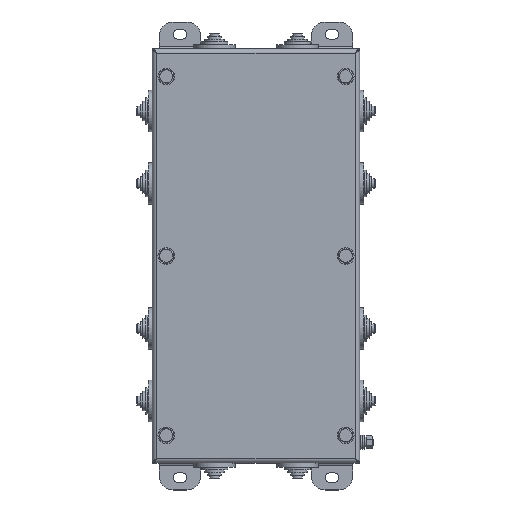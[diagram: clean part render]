
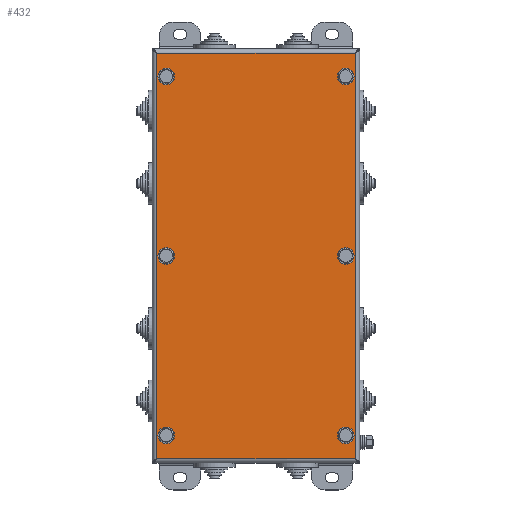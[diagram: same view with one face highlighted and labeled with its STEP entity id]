
A CAD part, top view. The second image highlights one B-rep face of the part: STEP entity #432.
In plain terms, the highlighted planar face has unit normal (0, 0, 1).
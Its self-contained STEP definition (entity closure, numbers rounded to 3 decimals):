
#432=ADVANCED_FACE('',(#22298,#22300,#22302,#22304,#22306,#22308,#22310),#22312,
.T.);
#22298=FACE_BOUND('',#22299,.T.);
#22299=EDGE_LOOP('',(#40190,#40191,#40192,#40193));
#22300=FACE_BOUND('',#22301,.T.);
#22301=EDGE_LOOP('',(#40194));
#22302=FACE_BOUND('',#22303,.T.);
#22303=EDGE_LOOP('',(#40195));
#22304=FACE_BOUND('',#22305,.T.);
#22305=EDGE_LOOP('',(#40196));
#22306=FACE_BOUND('',#22307,.T.);
#22307=EDGE_LOOP('',(#40197));
#22308=FACE_BOUND('',#22309,.T.);
#22309=EDGE_LOOP('',(#40198));
#22310=FACE_BOUND('',#22311,.T.);
#22311=EDGE_LOOP('',(#40199));
#22312=PLANE('',#22313);
#22313=AXIS2_PLACEMENT_3D('',#22314,#22315,#22316);
#22314=CARTESIAN_POINT('',(0.,0.,61.5));
#22315=DIRECTION('',(0.,-0.,1.));
#22316=DIRECTION('',(0.,1.,0.));
#40190=ORIENTED_EDGE('',*,*,#55079,.T.);
#40191=ORIENTED_EDGE('',*,*,#55080,.T.);
#40192=ORIENTED_EDGE('',*,*,#55081,.T.);
#40193=ORIENTED_EDGE('',*,*,#55082,.T.);
#40194=ORIENTED_EDGE('',*,*,#55004,.T.);
#40195=ORIENTED_EDGE('',*,*,#54998,.T.);
#40196=ORIENTED_EDGE('',*,*,#54992,.T.);
#40197=ORIENTED_EDGE('',*,*,#54986,.T.);
#40198=ORIENTED_EDGE('',*,*,#54980,.T.);
#40199=ORIENTED_EDGE('',*,*,#54974,.T.);
#54974=EDGE_CURVE('',#61257,#61257,#61258,.F.);
#54980=EDGE_CURVE('',#61269,#61269,#61270,.F.);
#54986=EDGE_CURVE('',#61281,#61281,#61282,.F.);
#54992=EDGE_CURVE('',#61293,#61293,#61294,.F.);
#54998=EDGE_CURVE('',#61305,#61305,#61306,.F.);
#55004=EDGE_CURVE('',#61317,#61317,#61318,.F.);
#55079=EDGE_CURVE('',#61457,#61458,#61459,.T.);
#55080=EDGE_CURVE('',#61458,#61460,#61461,.T.);
#55081=EDGE_CURVE('',#61460,#61462,#61463,.T.);
#55082=EDGE_CURVE('',#61462,#61457,#61464,.T.);
#61257=VERTEX_POINT('',#71680);
#61258=CIRCLE('',#71681,6.);
#61269=VERTEX_POINT('',#71710);
#61270=CIRCLE('',#71711,6.);
#61281=VERTEX_POINT('',#71740);
#61282=CIRCLE('',#71741,6.);
#61293=VERTEX_POINT('',#71770);
#61294=CIRCLE('',#71771,6.);
#61305=VERTEX_POINT('',#71800);
#61306=CIRCLE('',#71801,6.);
#61317=VERTEX_POINT('',#71830);
#61318=CIRCLE('',#71831,6.);
#61457=VERTEX_POINT('',#72164);
#61458=VERTEX_POINT('',#72165);
#61459=LINE('',#72166,#72167);
#61460=VERTEX_POINT('',#72169);
#61461=LINE('',#72170,#72171);
#61462=VERTEX_POINT('',#72173);
#61463=LINE('',#72174,#72175);
#61464=LINE('',#72177,#72178);
#71680=CARTESIAN_POINT('',(71.,130.,61.5));
#71681=AXIS2_PLACEMENT_3D('',#71682,#71683,#71684);
#71682=CARTESIAN_POINT('',(65.,130.,61.5));
#71683=DIRECTION('',(0.,-0.,1.));
#71684=DIRECTION('',(1.,0.,0.));
#71710=CARTESIAN_POINT('',(-59.,130.,61.5));
#71711=AXIS2_PLACEMENT_3D('',#71712,#71713,#71714);
#71712=CARTESIAN_POINT('',(-65.,130.,61.5));
#71713=DIRECTION('',(0.,-0.,1.));
#71714=DIRECTION('',(1.,0.,0.));
#71740=CARTESIAN_POINT('',(71.,0.,61.5));
#71741=AXIS2_PLACEMENT_3D('',#71742,#71743,#71744);
#71742=CARTESIAN_POINT('',(65.,0.,61.5));
#71743=DIRECTION('',(0.,-0.,1.));
#71744=DIRECTION('',(1.,0.,0.));
#71770=CARTESIAN_POINT('',(-59.,0.,61.5));
#71771=AXIS2_PLACEMENT_3D('',#71772,#71773,#71774);
#71772=CARTESIAN_POINT('',(-65.,0.,61.5));
#71773=DIRECTION('',(0.,-0.,1.));
#71774=DIRECTION('',(1.,0.,0.));
#71800=CARTESIAN_POINT('',(71.,-130.,61.5));
#71801=AXIS2_PLACEMENT_3D('',#71802,#71803,#71804);
#71802=CARTESIAN_POINT('',(65.,-130.,61.5));
#71803=DIRECTION('',(0.,-0.,1.));
#71804=DIRECTION('',(1.,0.,0.));
#71830=CARTESIAN_POINT('',(-59.,-130.,61.5));
#71831=AXIS2_PLACEMENT_3D('',#71832,#71833,#71834);
#71832=CARTESIAN_POINT('',(-65.,-130.,61.5));
#71833=DIRECTION('',(0.,-0.,1.));
#71834=DIRECTION('',(1.,0.,0.));
#72164=CARTESIAN_POINT('',(-71.8,146.8,61.5));
#72165=CARTESIAN_POINT('',(-71.8,-146.8,61.5));
#72166=CARTESIAN_POINT('',(-71.8,146.8,61.5));
#72167=VECTOR('',#72168,1.);
#72168=DIRECTION('',(0.,-1.,0.));
#72169=CARTESIAN_POINT('',(71.8,-146.8,61.5));
#72170=CARTESIAN_POINT('',(-71.8,-146.8,61.5));
#72171=VECTOR('',#72172,1.);
#72172=DIRECTION('',(1.,0.,0.));
#72173=CARTESIAN_POINT('',(71.8,146.8,61.5));
#72174=CARTESIAN_POINT('',(71.8,-146.8,61.5));
#72175=VECTOR('',#72176,1.);
#72176=DIRECTION('',(0.,1.,0.));
#72177=CARTESIAN_POINT('',(71.8,146.8,61.5));
#72178=VECTOR('',#72179,1.);
#72179=DIRECTION('',(-1.,0.,0.));
